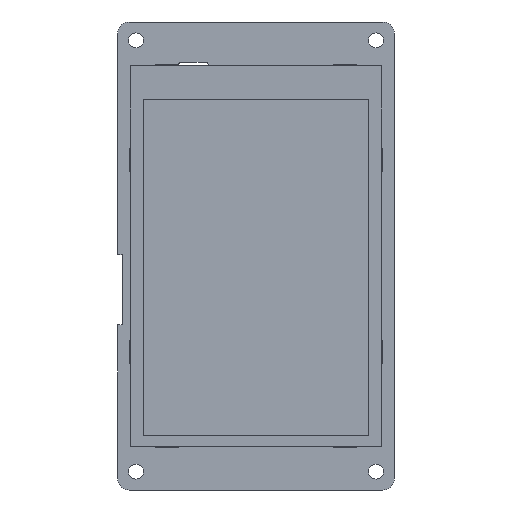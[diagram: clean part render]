
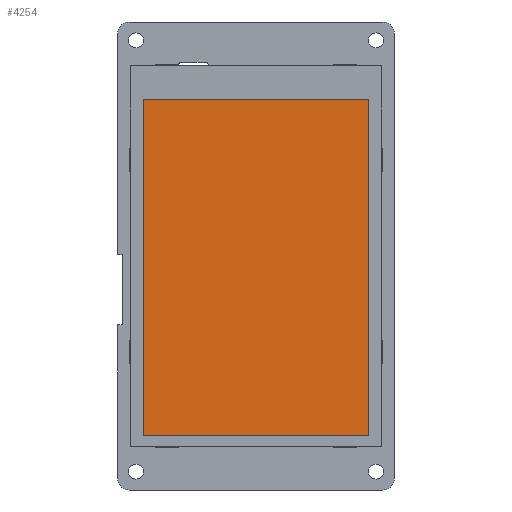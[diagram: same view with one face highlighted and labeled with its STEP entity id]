
A CAD part, front view. The second image highlights one B-rep face of the part: STEP entity #4254.
In plain terms, the highlighted planar face has unit normal (0, -1, 0).
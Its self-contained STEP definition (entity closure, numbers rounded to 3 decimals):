
#965=DIRECTION('',(0.,0.,1.));
#966=VECTOR('',#965,74.14);
#967=CARTESIAN_POINT('',(24.83,-4.4,-39.45));
#968=LINE('',#967,#966);
#977=DIRECTION('',(1.,0.,0.));
#978=VECTOR('',#977,49.66);
#979=CARTESIAN_POINT('',(-24.83,-4.4,-39.45));
#980=LINE('',#979,#978);
#989=DIRECTION('',(0.,0.,-1.));
#990=VECTOR('',#989,74.14);
#991=CARTESIAN_POINT('',(-24.83,-4.4,34.69));
#992=LINE('',#991,#990);
#1001=DIRECTION('',(-1.,0.,0.));
#1002=VECTOR('',#1001,49.66);
#1003=CARTESIAN_POINT('',(24.83,-4.4,34.69));
#1004=LINE('',#1003,#1002);
#3142=CARTESIAN_POINT('',(24.83,-4.4,-39.45));
#3143=CARTESIAN_POINT('',(24.83,-4.4,34.69));
#3144=VERTEX_POINT('',#3142);
#3145=VERTEX_POINT('',#3143);
#3146=CARTESIAN_POINT('',(-24.83,-4.4,-39.45));
#3147=VERTEX_POINT('',#3146);
#3148=CARTESIAN_POINT('',(-24.83,-4.4,34.69));
#3149=VERTEX_POINT('',#3148);
#4240=CARTESIAN_POINT('',(0.,-4.4,0.064));
#4241=DIRECTION('',(0.,1.,0.));
#4242=DIRECTION('',(0.,0.,1.));
#4243=AXIS2_PLACEMENT_3D('',#4240,#4241,#4242);
#4244=PLANE('',#4243);
#4245=ORIENTED_EDGE('',*,*,#4230,.F.);
#4247=ORIENTED_EDGE('',*,*,#4246,.F.);
#4249=ORIENTED_EDGE('',*,*,#4248,.F.);
#4251=ORIENTED_EDGE('',*,*,#4250,.F.);
#4252=EDGE_LOOP('',(#4245,#4247,#4249,#4251));
#4253=FACE_OUTER_BOUND('',#4252,.F.);
#4230=EDGE_CURVE('',#3144,#3145,#968,.T.);
#4246=EDGE_CURVE('',#3147,#3144,#980,.T.);
#4248=EDGE_CURVE('',#3149,#3147,#992,.T.);
#4250=EDGE_CURVE('',#3145,#3149,#1004,.T.);
#4254=ADVANCED_FACE('',(#4253),#4244,.F.);
